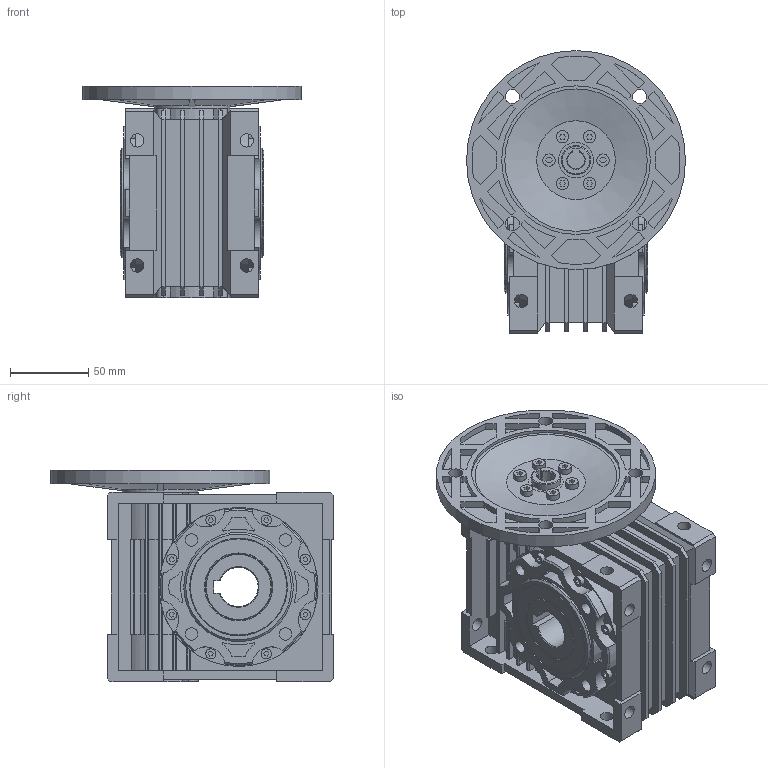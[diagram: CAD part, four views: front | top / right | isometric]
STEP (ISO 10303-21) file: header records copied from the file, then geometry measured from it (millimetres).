
FILE_DESCRIPTION(/* description */ (''),/* implementation_level */ '2;1');
FILE_NAME(/* name */ 'Z:\동력 3D 파일\PCMRV050_63B5_3D.stp',/* time_stamp */ '2021-12-01T16:40:09+09:00',/* author */ ('jaebok'),/* organization */ (''),/* preprocessor_version */ 'ST-DEVELOPER v18.1',/* originating_system */ 'Autodesk Inventor 2022',/* authorisation */ '');
FILE_SCHEMA (('AUTOMOTIVE_DESIGN { 1 0 10303 214 3 1 1 }'));
Length unit declared in the file: millimetre
Products named in the file (1): 부품43
Bounding box: 140 x 180.5 x 135 mm (x, y, z)
Volume: 1241734.6 mm3; surface area: 183991.3 mm2
Topology: 1 solids, 2 shells, 860 faces, 2232 edges, 1475 vertices
Faces by surface type: plane 550, cylinder 277, cone 33
Full cylindrical faces by diameter (mm): 3.188 x8, 6.5 x16, 7.903 x6, 8 x8, 8.5 x16, 9 x4, 18.7 x1, 22.44 x1, 41.5 x2, 42.5 x2, 48.5 x1, 62.5 x2, 70 x2, 95 x1, 101.6 x2, 140 x1
Entity records: 27610 total; most frequent: CARTESIAN_POINT 5016, DIRECTION 4502, ORIENTED_EDGE 4464, EDGE_CURVE 2232, LINE 1536, VECTOR 1536, AXIS2_PLACEMENT_3D 1483, VERTEX_POINT 1475
